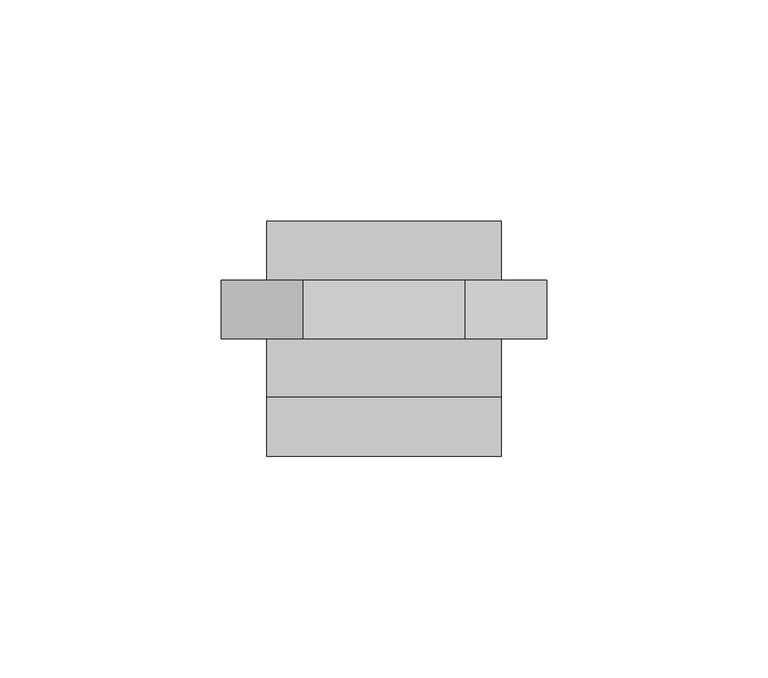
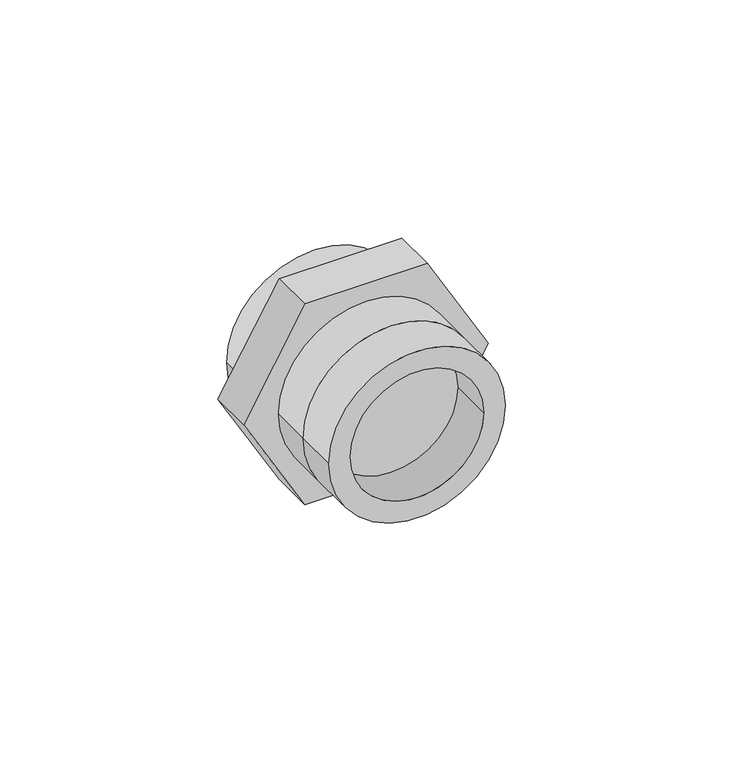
"""IFC4 building model written with IfcOpenShell, lengths in millimetres: pipe fitting geometry, EGB_VASEN_ PPR_Enlace desmontable soldar soldar WXR109 : Enlace desmontable soldar-soldar WXR109."""

from ifc_helpers import new_model, si_unit, point, frame, origin, origin_2d, place, context, project, spatial, polyline, circle_curve, trimmed, segment, composite_curve, outline, extrude, source, transform, mapped, element, save


def pipe_fitting_11b3a5d1(model_context):
    return source(origin(), model_context, "Body", "SweptSolid", [
        extrude(outline(polyline([(0.0, 36.7194771), (31.8, 18.3597386), (31.8, -18.3597386), (0.0, -36.7194771), (-31.8, -18.3597386), (-31.8, 18.3597386), (0.0, 36.7194771)])), frame((0.0, -1.10625, 0.0), z_axis=(0.0, 1.0, 0.0), x_axis=(0.0, 0.0, 1.0)), (0.0, 0.0, 1.0), 13.25),
        extrude(outline(composite_curve([segment(trimmed(circle_curve(origin_2d(), 26.5), [point((0.0, -26.5))], [point((0.0, 26.5))], False, "CARTESIAN"), True, "CONTINUOUS"), segment(trimmed(circle_curve(origin_2d(), 26.5), [point((0.0, 26.5))], [point((0.0, -26.5))], False, "CARTESIAN"), True, "CONTINUOUS")], self_intersect=False), holes=[composite_curve([segment(trimmed(circle_curve(origin_2d(), 20.0), [point((0.0, -20.0))], [point((0.0, 20.0))], True, "CARTESIAN"), True, "CONTINUOUS"), segment(trimmed(circle_curve(origin_2d(), 20.0), [point((0.0, 20.0))], [point((0.0, -20.0))], True, "CARTESIAN"), True, "CONTINUOUS")], self_intersect=False)]), frame((0.0, -27.60625, 0.0), z_axis=(0.0, 1.0, 0.0), x_axis=(0.0, 0.0, 1.0)), (0.0, 0.0, 1.0), 13.25),
        extrude(outline(composite_curve([segment(trimmed(circle_curve(origin_2d(), 26.5), [point((0.0, -26.5))], [point((0.0, 26.5))], False, "CARTESIAN"), True, "CONTINUOUS"), segment(trimmed(circle_curve(origin_2d(), 26.5), [point((0.0, 26.5))], [point((0.0, -26.5))], False, "CARTESIAN"), True, "CONTINUOUS")], self_intersect=False), holes=[composite_curve([segment(trimmed(circle_curve(origin_2d(), 20.0), [point((0.0, -20.0))], [point((0.0, 20.0))], True, "CARTESIAN"), True, "CONTINUOUS"), segment(trimmed(circle_curve(origin_2d(), 20.0), [point((0.0, 20.0))], [point((0.0, -20.0))], True, "CARTESIAN"), True, "CONTINUOUS")], self_intersect=False)]), frame((0.0, 12.14375, 0.0), z_axis=(0.0, 1.0, 0.0), x_axis=(0.0, 0.0, 1.0)), (0.0, 0.0, 1.0), 13.25),
        extrude(outline(composite_curve([segment(trimmed(circle_curve(origin_2d(), 26.5), [point((0.0, -26.5))], [point((0.0, 26.5))], False, "CARTESIAN"), True, "CONTINUOUS"), segment(trimmed(circle_curve(origin_2d(), 26.5), [point((0.0, 26.5))], [point((0.0, -26.5))], False, "CARTESIAN"), True, "CONTINUOUS")], self_intersect=False)), frame((0.0, -14.35625, 0.0), z_axis=(0.0, 1.0, 0.0), x_axis=(0.0, 0.0, 1.0)), (0.0, 0.0, 1.0), 13.25),
    ])


if __name__ == "__main__":
    model = new_model("IFC4")
    model_context = context("Model", 3, world=origin())
    ifc_project = project(units=[si_unit("LENGTHUNIT", "METRE", prefix="MILLI")], contexts=[model_context])
    site = spatial("IfcSite", under=ifc_project)
    building = spatial("IfcBuilding", under=site)
    placement = place(None, origin())
    pipe_fitting_shape = pipe_fitting_11b3a5d1(model_context)
    element("IfcPipeFitting", 1, ObjectType="EGB_VASEN_ PPR_Enlace desmontable soldar soldar WXR109 : Enlace desmontable soldar-soldar WXR109", at=placement, inside=building, context=model_context, shape_type="MappedRepresentation", body=[
        mapped(pipe_fitting_shape, transform((0.0, 0.0, 0.0), x_axis=(1.0, 0.0, 0.0), y_axis=(0.0, 1.0, 0.0), z_axis=(0.0, 0.0, 1.0))),
    ])
    save(model, "model.ifc")
